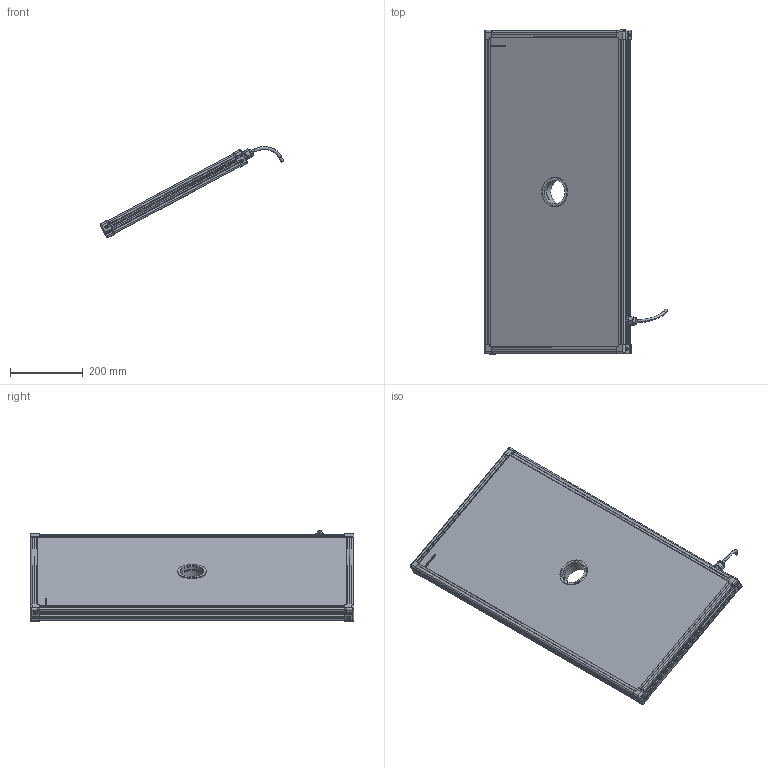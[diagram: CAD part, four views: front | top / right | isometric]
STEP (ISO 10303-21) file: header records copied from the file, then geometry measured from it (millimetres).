
FILE_DESCRIPTION (( 'STEP AP214' ), '1' );
FILE_NAME ('EFFI-FD-400-850-ZZZ-1M12P.STEP', '2021-06-24T07:51:47', ( '' ), ( '' ), 'SwSTEP 2.0', 'SolidWorks 2021', '' );
FILE_SCHEMA (( 'AUTOMOTIVE_DESIGN' ));
Length unit declared in the file: millimetre
Products named in the file (13): petite joue + vis; EFFI-FD-400-850-ZZZ-1M12P; Pièce13^EFFI-FD-XXX-YYY-ZZZ (1 connecteur) M12POWER Ø65; 004408; profile Y_PERCE; profile X_PERCE; M12 power_AVEC CABLE D8.1; 000629; Assemblage Ø65; 000590; petite joue; 004409
Assembly tree (19 placements, depth 3):
  EFFI-FD-400-850-ZZZ-1M12P
    profile X_PERCE  x2
    profile Y_PERCE
    profile Y_PERCE
    Pièce13^EFFI-FD-XXX-YYY-ZZZ (1 connecteur) M12POWER Ø65
    petite joue + vis  x4
      petite joue
      000629
    M12 power_AVEC CABLE D8.1
    Assemblage Ø65
      004408
      004409
      000590  x3
Bounding box: 503.1 x 889 x 249.72 mm (x, y, z)
Volume: 13416433.6 mm3; surface area: 1203177.1 mm2
Topology: 22 solids, 25 shells, 3951 faces, 10520 edges, 6907 vertices
Faces by surface type: plane 2447, cylinder 720, bspline 591, cone 156, torus 29, sphere 8
Entity records: 56000 total; most frequent: CARTESIAN_POINT 22561, ORIENTED_EDGE 7014, DIRECTION 5746, EDGE_CURVE 3509, VECTOR 2458, LINE 2458, VERTEX_POINT 2308, AXIS2_PLACEMENT_3D 1644
